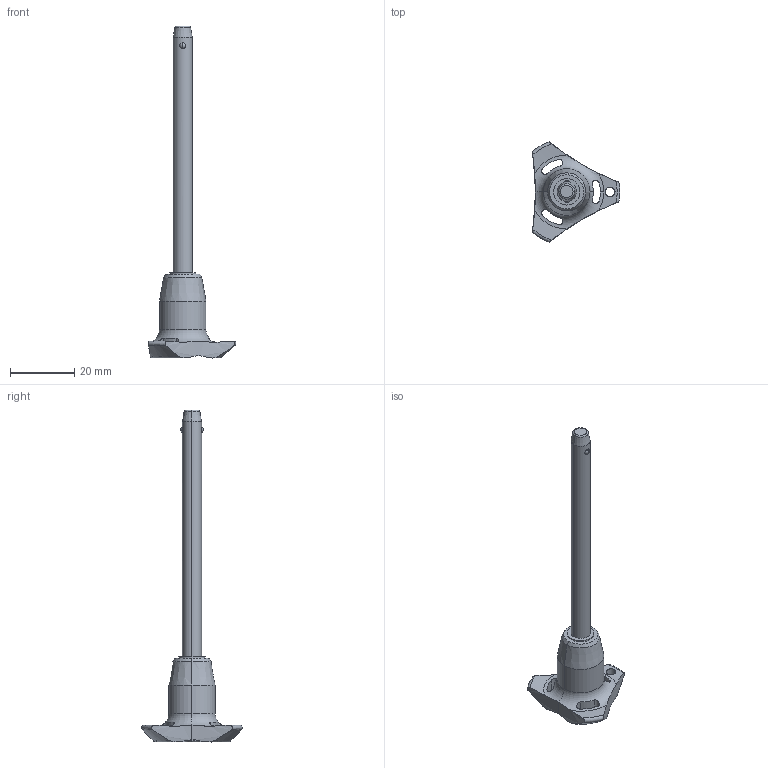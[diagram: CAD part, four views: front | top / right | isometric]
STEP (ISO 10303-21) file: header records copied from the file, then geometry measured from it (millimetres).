
FILE_DESCRIPTION (( 'STEP AP203' ), '1' );
FILE_NAME ('QR1704.M06-070-S.step', '2025-11-12T09:08:15', ( '' ), ( '' ), 'SwSTEP 2.0', 'SolidWorks 2019', '' );
FILE_SCHEMA (( 'CONFIG_CONTROL_DESIGN' ));
Length unit declared in the file: millimetre
Products named in the file (1): QR1704.M06-070-S
Bounding box: 27.4 x 31.31 x 103.7 mm (x, y, z)
Volume: 6945.3 mm3; surface area: 3872.3 mm2
Topology: 1 solids, 1 shells, 66 faces, 181 edges, 115 vertices
Faces by surface type: cylinder 30, cone 14, torus 12, sphere 6, plane 4
Entity records: 2709 total; most frequent: CARTESIAN_POINT 997, ORIENTED_EDGE 362, DIRECTION 332, EDGE_CURVE 181, AXIS2_PLACEMENT_3D 148, VERTEX_POINT 115, CIRCLE 81, EDGE_LOOP 72
